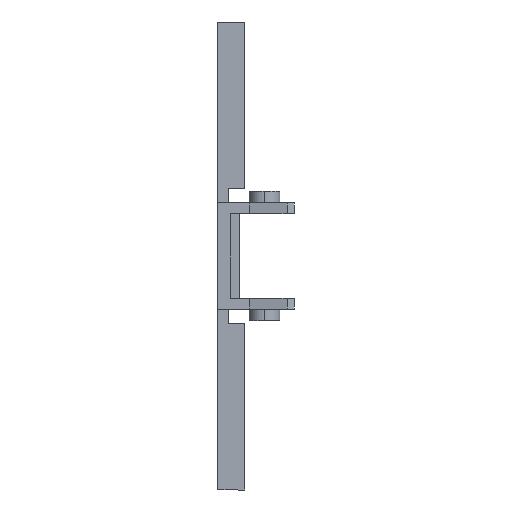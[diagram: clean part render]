
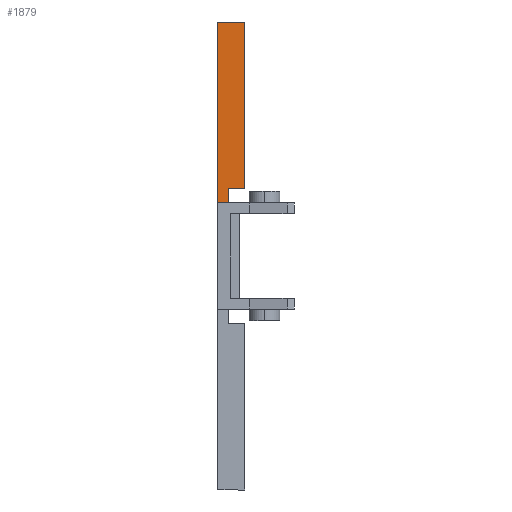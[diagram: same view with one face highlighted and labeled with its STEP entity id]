
A CAD part, front view. The second image highlights one B-rep face of the part: STEP entity #1879.
In plain terms, the highlighted planar face has unit normal (0, -1, 0).
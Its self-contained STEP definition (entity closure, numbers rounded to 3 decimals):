
#279 = DIRECTION ( 'NONE',  ( 0., 0., 1. ) ) ;
#280 = DIRECTION ( 'NONE',  ( 0., 1., 0. ) ) ;
#286 = CARTESIAN_POINT ( 'NONE',  ( 0., -9., 5. ) ) ;
#289 = PLANE ( 'NONE',  #1612 ) ;
#428 = CARTESIAN_POINT ( 'NONE',  ( 1.2, -9., 7.5 ) ) ;
#429 = CARTESIAN_POINT ( 'NONE',  ( 3., -9., 7.5 ) ) ;
#436 = CARTESIAN_POINT ( 'NONE',  ( 1.2, -9., 5.9 ) ) ;
#439 = CARTESIAN_POINT ( 'NONE',  ( 0., -9., 26. ) ) ;
#440 = CARTESIAN_POINT ( 'NONE',  ( 0., -9., 5.9 ) ) ;
#441 = CARTESIAN_POINT ( 'NONE',  ( 3., -9., 26. ) ) ;
#545 = DIRECTION ( 'NONE',  ( -1., 0., 0. ) ) ;
#546 = CARTESIAN_POINT ( 'NONE',  ( 3., -9., 7.5 ) ) ;
#679 = ORIENTED_EDGE ( 'NONE', *, *, #1421, .F. ) ;
#681 = ORIENTED_EDGE ( 'NONE', *, *, #1414, .F. ) ;
#682 = ORIENTED_EDGE ( 'NONE', *, *, #1557, .F. ) ;
#683 = ORIENTED_EDGE ( 'NONE', *, *, #1539, .F. ) ;
#685 = ORIENTED_EDGE ( 'NONE', *, *, #1696, .F. ) ;
#687 = ORIENTED_EDGE ( 'NONE', *, *, #1524, .F. ) ;
#793 = EDGE_LOOP ( 'NONE', ( #679, #683, #681, #685, #682, #687 ) ) ;
#875 = LINE ( 'NONE', #2565, #883 ) ;
#883 = VECTOR ( 'NONE', #2596, 1000. ) ;
#890 = VECTOR ( 'NONE', #2583, 1000. ) ;
#1032 = LINE ( 'NONE', #2586, #890 ) ;
#1414 = EDGE_CURVE ( 'NONE', #2524, #2522, #875, .T. ) ;
#1421 = EDGE_CURVE ( 'NONE', #2516, #2515, #1032, .T. ) ;
#1524 = EDGE_CURVE ( 'NONE', #2515, #2517, #2356, .T. ) ;
#1539 = EDGE_CURVE ( 'NONE', #2522, #2516, #2334, .T. ) ;
#1557 = EDGE_CURVE ( 'NONE', #2517, #2525, #2322, .T. ) ;
#1612 = AXIS2_PLACEMENT_3D ( 'NONE', #286, #280, #279 ) ;
#1696 = EDGE_CURVE ( 'NONE', #2525, #2524, #2153, .T. ) ;
#1879 = ADVANCED_FACE ( 'NONE', ( #1916 ), #289, .F. ) ;
#1916 = FACE_OUTER_BOUND ( 'NONE', #793, .T. ) ;
#2152 = VECTOR ( 'NONE', #545, 1000. ) ;
#2153 = LINE ( 'NONE', #546, #2152 ) ;
#2313 = VECTOR ( 'NONE', #2776, 1000. ) ;
#2322 = LINE ( 'NONE', #2779, #2313 ) ;
#2333 = VECTOR ( 'NONE', #2800, 1000. ) ;
#2334 = LINE ( 'NONE', #2799, #2333 ) ;
#2353 = VECTOR ( 'NONE', #2818, 1000. ) ;
#2356 = LINE ( 'NONE', #2817, #2353 ) ;
#2515 = VERTEX_POINT ( 'NONE', #439 ) ;
#2516 = VERTEX_POINT ( 'NONE', #440 ) ;
#2517 = VERTEX_POINT ( 'NONE', #441 ) ;
#2522 = VERTEX_POINT ( 'NONE', #436 ) ;
#2524 = VERTEX_POINT ( 'NONE', #428 ) ;
#2525 = VERTEX_POINT ( 'NONE', #429 ) ;
#2565 = CARTESIAN_POINT ( 'NONE',  ( 1.2, -9., 7.5 ) ) ;
#2583 = DIRECTION ( 'NONE',  ( 0., 0., 1. ) ) ;
#2586 = CARTESIAN_POINT ( 'NONE',  ( 0., -9., 5. ) ) ;
#2596 = DIRECTION ( 'NONE',  ( 0., 0., -1. ) ) ;
#2776 = DIRECTION ( 'NONE',  ( 0., 0., -1. ) ) ;
#2779 = CARTESIAN_POINT ( 'NONE',  ( 3., -9., 26. ) ) ;
#2799 = CARTESIAN_POINT ( 'NONE',  ( 0., -9., 5.9 ) ) ;
#2800 = DIRECTION ( 'NONE',  ( -1., 0., 0. ) ) ;
#2817 = CARTESIAN_POINT ( 'NONE',  ( 0., -9., 26. ) ) ;
#2818 = DIRECTION ( 'NONE',  ( 1., 0., 0. ) ) ;
